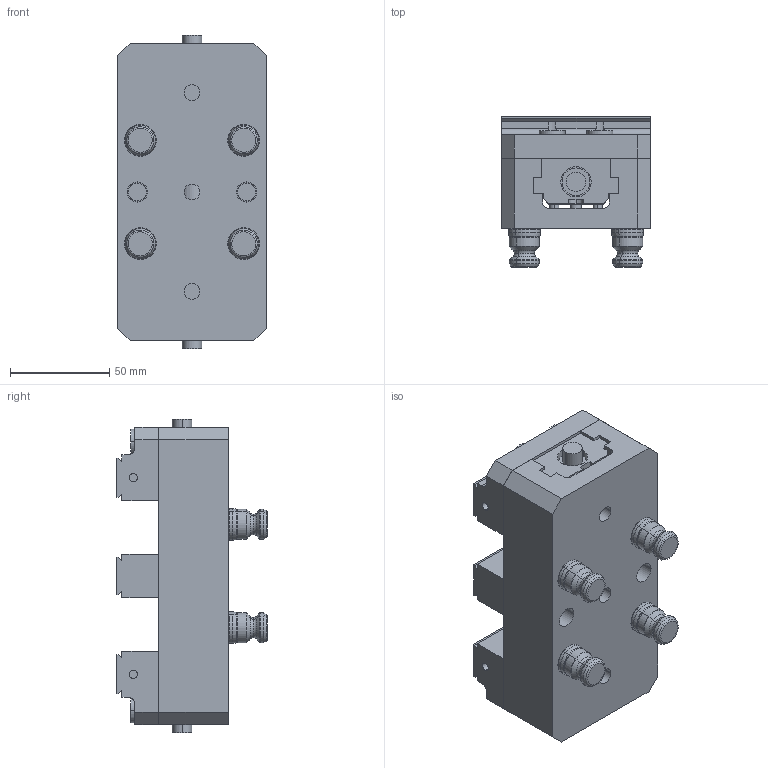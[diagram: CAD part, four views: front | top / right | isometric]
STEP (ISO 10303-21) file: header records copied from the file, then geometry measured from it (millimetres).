
FILE_DESCRIPTION (( 'STEP AP214' ), '1' );
FILE_NAME ('R52-DV75150X-J1.STEP', '2020-03-13T18:52:35', ( '' ), ( '' ), 'SwSTEP 2.0', 'SolidWorks 2018', '' );
FILE_SCHEMA (( 'AUTOMOTIVE_DESIGN' ));
Length unit declared in the file: millimetre
Products named in the file (8): D_V75100X-2; D_V75100X-2RDV; R52-DV75150X-J1; D_PS16F_HARD TURN; D_V75-5CDV; D_DV75150X-J1; D_DV75150X-1; D_V75100X-5
Assembly tree (11 placements, depth 3):
  R52-DV75150X-J1
    D_DV75150X-J1
      D_DV75150X-1
      D_V75100X-2RDV
      D_V75100X-2
      D_V75100X-5  x2
      D_V75-5CDV
    D_PS16F_HARD TURN  x4
Bounding box: 75 x 75.69 x 158 mm (x, y, z)
Volume: 439054.4 mm3; surface area: 121449.9 mm2
Topology: 11 solids, 11 shells, 536 faces, 1182 edges, 740 vertices
Faces by surface type: plane 206, cylinder 202, torus 88, cone 40
Entity records: 10852 total; most frequent: DIRECTION 1856, CARTESIAN_POINT 1732, ORIENTED_EDGE 1572, EDGE_CURVE 786, AXIS2_PLACEMENT_3D 712, VERTEX_POINT 512, VECTOR 432, LINE 432
